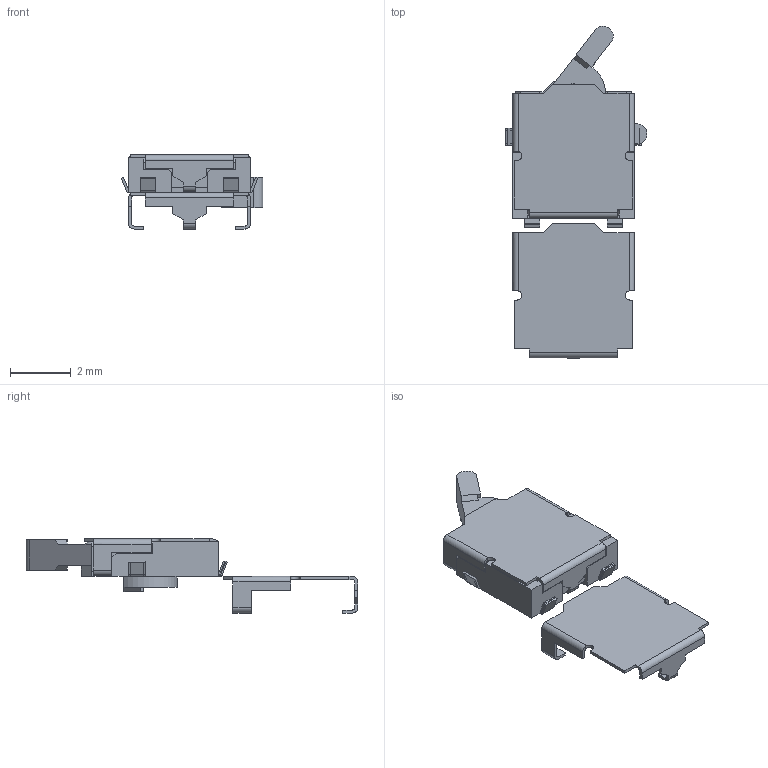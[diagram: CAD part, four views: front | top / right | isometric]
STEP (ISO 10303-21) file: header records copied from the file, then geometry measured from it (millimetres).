
FILE_DESCRIPTION( ( 'Unknown' ), '1' );
FILE_NAME( '//Ntcw022/Edgesv/fsw/ユーザ提出用データ/ﾃﾞｨﾃｸﾀｰｽｲｯﾁ/ESE18/ese18r11a-std-sk.stp', 'Unknown', ( 'Unknown' ), ( 'Unknown' ), 'PSStep 10.0', 'Unknown', ' ' );
FILE_SCHEMA( ( 'AUTOMOTIVE_DESIGN { 1 0 10303 214 1 1 1 1 }' ) );
Length unit declared in the file: millimetre
Products named in the file (8): Assem1; sw-131-e18cs-pc-1; sw-131-e18lv3-sk-1; sw-131-e18fm4-sk-1; sw-131-e18ts-j-sk-1
Bounding box: 4.64 x 10.88 x 2.43 mm (x, y, z)
Volume: 43.5 mm3; surface area: 237.2 mm2
Topology: 14 solids, 14 shells, 352 faces, 958 edges, 636 vertices
Faces by surface type: plane 304, cylinder 46, cone 2
Full cylindrical faces by diameter (mm): 0.6 x2, 0.64 x2
Entity records: 7013 total; most frequent: CARTESIAN_POINT 994, ORIENTED_EDGE 950, DIRECTION 886, EDGE_CURVE 475, LINE 424, VECTOR 424, VERTEX_POINT 317, AXIS2_PLACEMENT_3D 231
